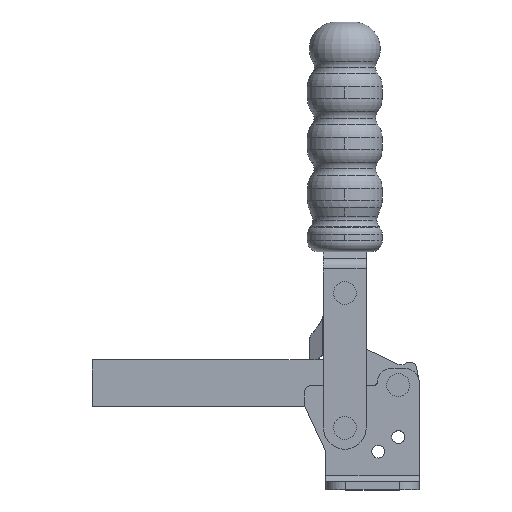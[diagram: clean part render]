
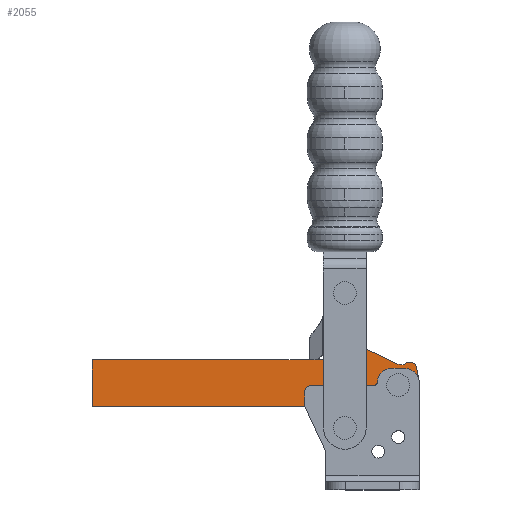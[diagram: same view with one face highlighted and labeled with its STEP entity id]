
A CAD part, top view. The second image highlights one B-rep face of the part: STEP entity #2055.
In plain terms, the highlighted planar face has unit normal (0, 0, 1).
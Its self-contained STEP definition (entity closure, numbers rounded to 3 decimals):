
#1377 = EDGE_CURVE( '', #3521, #2637, #3824, .T. );
#1417 = VERTEX_POINT( '', #3868 );
#1457 = EDGE_CURVE( '', #2637, #2593, #3910, .T. );
#1495 = EDGE_CURVE( '', #2381, #2825, #3956, .T. );
#1557 = EDGE_CURVE( '', #2461, #3053, #4025, .T. );
#1629 = EDGE_CURVE( '', #2131, #3005, #4104, .T. );
#1659 = VERTEX_POINT( '', #4139 );
#1669 = EDGE_CURVE( '', #3005, #2461, #4152, .T. );
#1899 = EDGE_CURVE( '', #2437, #1417, #4411, .T. );
#1969 = EDGE_CURVE( '', #3387, #2131, #4489, .T. );
#2051 = EDGE_CURVE( '', #2963, #3509, #4575, .T. );
#2055 = ADVANCED_FACE( '', ( #4579, #4580, #4581 ), #4582, .T. );
#2131 = VERTEX_POINT( '', #4667 );
#2201 = EDGE_CURVE( '', #2825, #3273, #4743, .T. );
#2381 = VERTEX_POINT( '', #4945 );
#2437 = VERTEX_POINT( '', #5003 );
#2461 = VERTEX_POINT( '', #5032 );
#2473 = EDGE_CURVE( '', #3053, #2381, #5046, .T. );
#2593 = VERTEX_POINT( '', #5180 );
#2637 = VERTEX_POINT( '', #5234 );
#2825 = VERTEX_POINT( '', #5438 );
#2935 = EDGE_CURVE( '', #3273, #1659, #5558, .T. );
#2963 = VERTEX_POINT( '', #5590 );
#2989 = EDGE_CURVE( '', #3509, #2963, #5617, .T. );
#3005 = VERTEX_POINT( '', #5634 );
#3053 = VERTEX_POINT( '', #5687 );
#3127 = EDGE_CURVE( '', #2593, #3521, #5768, .T. );
#3273 = VERTEX_POINT( '', #5930 );
#3387 = VERTEX_POINT( '', #6055 );
#3417 = EDGE_CURVE( '', #1417, #3387, #6085, .T. );
#3509 = VERTEX_POINT( '', #6186 );
#3521 = VERTEX_POINT( '', #6200 );
#3543 = EDGE_CURVE( '', #1659, #2437, #6227, .T. );
#3824 = CIRCLE( '', #6554, 3. );
#3868 = CARTESIAN_POINT( '', ( 33.959, 45.931, 3. ) );
#3910 = CIRCLE( '', #6670, 3. );
#3956 = LINE( '', #6726, #6727 );
#4025 = CIRCLE( '', #6811, 8. );
#4104 = CIRCLE( '', #6908, 3. );
#4139 = CARTESIAN_POINT( '', ( 28.361, 31.19, 3. ) );
#4152 = LINE( '', #6962, #6963 );
#4411 = LINE( '', #7326, #7327 );
#4489 = LINE( '', #7440, #7441 );
#4575 = CIRCLE( '', #7563, 3. );
#4579 = FACE_BOUND( '', #7569, .T. );
#4580 = FACE_BOUND( '', #7570, .T. );
#4581 = FACE_OUTER_BOUND( '', #7571, .T. );
#4582 = PLANE( '', #7572 );
#4667 = CARTESIAN_POINT( '', ( 29.914, 47.261, 3. ) );
#4743 = LINE( '', #7796, #7797 );
#4945 = CARTESIAN_POINT( '', ( -1.027, 48.69, 3. ) );
#5003 = CARTESIAN_POINT( '', ( 34.964, 40.561, 3. ) );
#5032 = CARTESIAN_POINT( '', ( 11.167, 54.7, 3. ) );
#5046 = CIRCLE( '', #8222, 1. );
#5180 = CARTESIAN_POINT( '', ( 7.7, 50.49, 3. ) );
#5234 = CARTESIAN_POINT( '', ( 7.7, 44.49, 3. ) );
#5438 = CARTESIAN_POINT( '', ( -87.4, 48.69, 3. ) );
#5558 = LINE( '', #8921, #8922 );
#5590 = CARTESIAN_POINT( '', ( 30.1, 39.09, 3. ) );
#5617 = CIRCLE( '', #9000, 3. );
#5634 = CARTESIAN_POINT( '', ( 27., 47.086, 3. ) );
#5687 = CARTESIAN_POINT( '', ( -0.057, 49.446, 3. ) );
#5768 = CIRCLE( '', #9223, 3. );
#5930 = CARTESIAN_POINT( '', ( -87.4, 31.19, 3. ) );
#6055 = CARTESIAN_POINT( '', ( 30.309, 47.513, 3. ) );
#6085 = CIRCLE( '', #9638, 2.4 );
#6186 = CARTESIAN_POINT( '', ( 24.1, 39.09, 3. ) );
#6200 = CARTESIAN_POINT( '', ( 10.7, 47.49, 3. ) );
#6227 = CIRCLE( '', #9823, 8. );
#6554 = AXIS2_PLACEMENT_3D( '', #10193, #10194, #10195 );
#6670 = AXIS2_PLACEMENT_3D( '', #10297, #10298, #10299 );
#6726 = CARTESIAN_POINT( '', ( -1.027, 48.69, 3. ) );
#6727 = VECTOR( '', #10374, 1. );
#6811 = AXIS2_PLACEMENT_3D( '', #10460, #10461, #10462 );
#6908 = AXIS2_PLACEMENT_3D( '', #10541, #10542, #10543 );
#6962 = CARTESIAN_POINT( '', ( 27., 47.086, 3. ) );
#6963 = VECTOR( '', #10621, 1. );
#7326 = CARTESIAN_POINT( '', ( 34.964, 40.561, 3. ) );
#7327 = VECTOR( '', #10928, 1. );
#7440 = CARTESIAN_POINT( '', ( 30.309, 47.513, 3. ) );
#7441 = VECTOR( '', #11031, 1. );
#7563 = AXIS2_PLACEMENT_3D( '', #11121, #11122, #11123 );
#7569 = EDGE_LOOP( '', ( #11126, #11127 ) );
#7570 = EDGE_LOOP( '', ( #11128, #11129, #11130 ) );
#7571 = EDGE_LOOP( '', ( #11131, #11132, #11133, #11134, #11135, #11136, #11137, #11138, #11139, #11140, #11141 ) );
#7572 = AXIS2_PLACEMENT_3D( '', #11142, #11143, #11144 );
#7796 = CARTESIAN_POINT( '', ( -87.4, 48.69, 3. ) );
#7797 = VECTOR( '', #11334, 1. );
#8222 = AXIS2_PLACEMENT_3D( '', #11701, #11702, #11703 );
#8921 = CARTESIAN_POINT( '', ( -87.4, 31.19, 3. ) );
#8922 = VECTOR( '', #12308, 1. );
#9000 = AXIS2_PLACEMENT_3D( '', #12370, #12371, #12372 );
#9223 = AXIS2_PLACEMENT_3D( '', #12572, #12573, #12574 );
#9638 = AXIS2_PLACEMENT_3D( '', #12927, #12928, #12929 );
#9823 = AXIS2_PLACEMENT_3D( '', #13118, #13119, #13120 );
#10193 = CARTESIAN_POINT( '', ( 7.7, 47.49, 3. ) );
#10194 = DIRECTION( '', ( 0., 0., -1. ) );
#10195 = DIRECTION( '', ( 1., 0., 0. ) );
#10297 = CARTESIAN_POINT( '', ( 7.7, 47.49, 3. ) );
#10298 = DIRECTION( '', ( 0., 0., -1. ) );
#10299 = DIRECTION( '', ( 1., 0., 0. ) );
#10374 = DIRECTION( '', ( -1., 0., 0. ) );
#10460 = CARTESIAN_POINT( '', ( 7.7, 47.49, 3. ) );
#10461 = DIRECTION( '', ( 0., 0., 1. ) );
#10462 = DIRECTION( '', ( 0.433, 0.901, 0. ) );
#10541 = CARTESIAN_POINT( '', ( 28.3, 49.79, 3. ) );
#10542 = DIRECTION( '', ( 0., 0., -1. ) );
#10543 = DIRECTION( '', ( 0.538, -0.843, 0. ) );
#10621 = DIRECTION( '', ( -0.901, 0.433, 0. ) );
#10928 = DIRECTION( '', ( -0.184, 0.983, 0. ) );
#11031 = DIRECTION( '', ( -0.843, -0.538, 0. ) );
#11121 = CARTESIAN_POINT( '', ( 27.1, 39.09, 3. ) );
#11122 = DIRECTION( '', ( 0., 0., -1. ) );
#11123 = DIRECTION( '', ( 1., 0., 0. ) );
#11126 = ORIENTED_EDGE( '', *, *, #2051, .T. );
#11127 = ORIENTED_EDGE( '', *, *, #2989, .T. );
#11128 = ORIENTED_EDGE( '', *, *, #1377, .T. );
#11129 = ORIENTED_EDGE( '', *, *, #1457, .T. );
#11130 = ORIENTED_EDGE( '', *, *, #3127, .T. );
#11131 = ORIENTED_EDGE( '', *, *, #2935, .T. );
#11132 = ORIENTED_EDGE( '', *, *, #3543, .T. );
#11133 = ORIENTED_EDGE( '', *, *, #1899, .T. );
#11134 = ORIENTED_EDGE( '', *, *, #3417, .T. );
#11135 = ORIENTED_EDGE( '', *, *, #1969, .T. );
#11136 = ORIENTED_EDGE( '', *, *, #1629, .T. );
#11137 = ORIENTED_EDGE( '', *, *, #1669, .T. );
#11138 = ORIENTED_EDGE( '', *, *, #1557, .T. );
#11139 = ORIENTED_EDGE( '', *, *, #2473, .T. );
#11140 = ORIENTED_EDGE( '', *, *, #1495, .T. );
#11141 = ORIENTED_EDGE( '', *, *, #2201, .T. );
#11142 = CARTESIAN_POINT( '', ( -77.4, 31.19, 3. ) );
#11143 = DIRECTION( '', ( 0., 0., 1. ) );
#11144 = DIRECTION( '', ( 1., 0., 0. ) );
#11334 = DIRECTION( '', ( 0., -1., 0. ) );
#11701 = CARTESIAN_POINT( '', ( -1.027, 49.69, 3. ) );
#11702 = DIRECTION( '', ( 0., 0., -1. ) );
#11703 = DIRECTION( '', ( 0.97, -0.244, 0. ) );
#12308 = DIRECTION( '', ( 1., 0., 0. ) );
#12370 = CARTESIAN_POINT( '', ( 27.1, 39.09, 3. ) );
#12371 = DIRECTION( '', ( 0., 0., -1. ) );
#12372 = DIRECTION( '', ( 1., 0., 0. ) );
#12572 = CARTESIAN_POINT( '', ( 7.7, 47.49, 3. ) );
#12573 = DIRECTION( '', ( 0., 0., -1. ) );
#12574 = DIRECTION( '', ( 1., 0., 0. ) );
#12927 = CARTESIAN_POINT( '', ( 31.6, 45.49, 3. ) );
#12928 = DIRECTION( '', ( 0., 0., 1. ) );
#12929 = DIRECTION( '', ( 0.983, 0.184, 0. ) );
#13118 = CARTESIAN_POINT( '', ( 27.1, 39.09, 3. ) );
#13119 = DIRECTION( '', ( 0., 0., 1. ) );
#13120 = DIRECTION( '', ( 0.158, -0.988, 0. ) );
